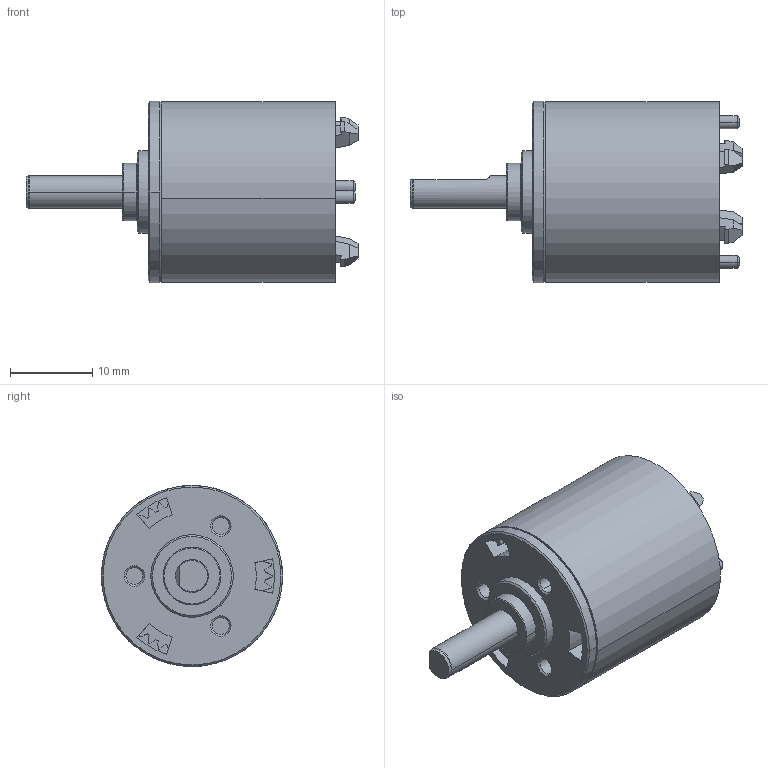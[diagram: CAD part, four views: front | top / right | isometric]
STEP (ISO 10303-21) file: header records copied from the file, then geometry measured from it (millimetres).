
FILE_DESCRIPTION((''),'2;1');
FILE_NAME('GP22L','2016-10-04T',('mmagvisi'),(''),'CREO PARAMETRIC BY PTC INC, 2016050','CREO PARAMETRIC BY PTC INC, 2016050','');
FILE_SCHEMA(('CONFIG_CONTROL_DESIGN'));
Length unit declared in the file: millimetre
Products named in the file (1): GP22L
Bounding box: 40.3 x 22 x 22 mm (x, y, z)
Volume: 8444.7 mm3; surface area: 3650.2 mm2
Topology: 1 solids, 34 shells, 645 faces, 1643 edges, 1082 vertices
Faces by surface type: plane 247, bspline 176, cylinder 136, cone 85, torus 1
Entity records: 27133 total; most frequent: CARTESIAN_POINT 7566, ORIENTED_EDGE 3286, DIRECTION 2532, PRESENTATION_STYLE_ASSIGNMENT 1644, STYLED_ITEM 1644, CURVE_STYLE 1643, EDGE_CURVE 1643, VERTEX_POINT 1082
